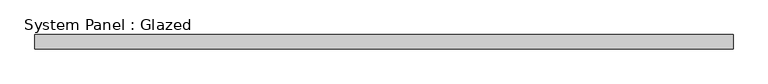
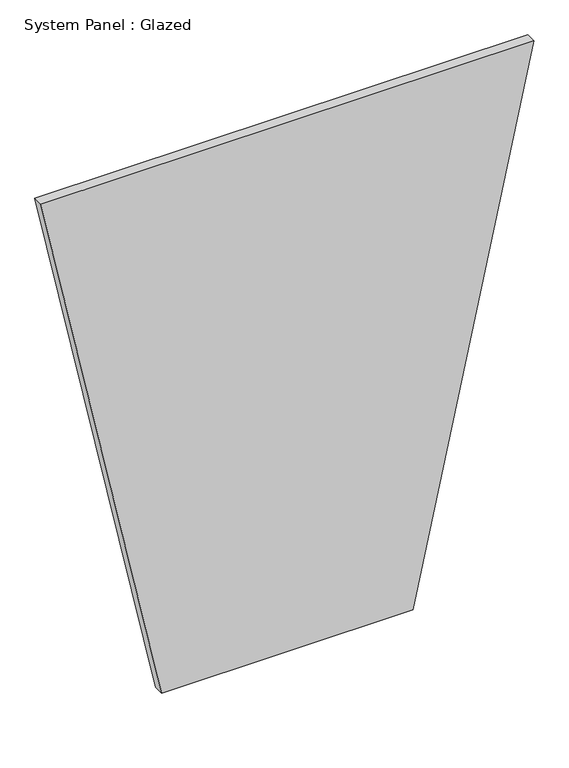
"""IFC4 building model written with IfcOpenShell, lengths in millimetres: plate geometry, System Panel : Glazed."""

from ifc_helpers import new_model, si_unit, frame, origin, place, context, project, spatial, polyline, outline, extrude, source, transform, mapped, element, save


def system_panel_glazed_481fb3e2(model_context):
    return source(origin(), model_context, "Body", "SweptSolid", [
        extrude(outline(polyline([(0.0, -313.813392), (0.0, 313.813392), (1394.3114777, 615.3663912), (1394.3114777, -615.3663912), (0.0, -313.813392)])), frame((0.0, -44.45, 0.0), z_axis=(0.0, 1.0, 0.0), x_axis=(0.0, 0.0, 1.0)), (0.0, 0.0, 1.0), 25.4),
    ])


if __name__ == "__main__":
    model = new_model("IFC4")
    model_context = context("Model", 3, world=origin())
    ifc_project = project(units=[si_unit("LENGTHUNIT", "METRE", prefix="MILLI")], contexts=[model_context])
    site = spatial("IfcSite", under=ifc_project)
    building = spatial("IfcBuilding", under=site)
    placement = place(None, origin())
    system_panel_glazed_shape = system_panel_glazed_481fb3e2(model_context)
    element("IfcPlate", 1, ObjectType="System Panel : Glazed", at=placement, inside=building, context=model_context, shape_type="MappedRepresentation", body=[
        mapped(system_panel_glazed_shape, transform((0.0, 0.0, 0.0), x_axis=(1.0, 0.0, 0.0), y_axis=(0.0, 1.0, 0.0), z_axis=(0.0, 0.0, 1.0))),
    ])
    save(model, "model.ifc")
